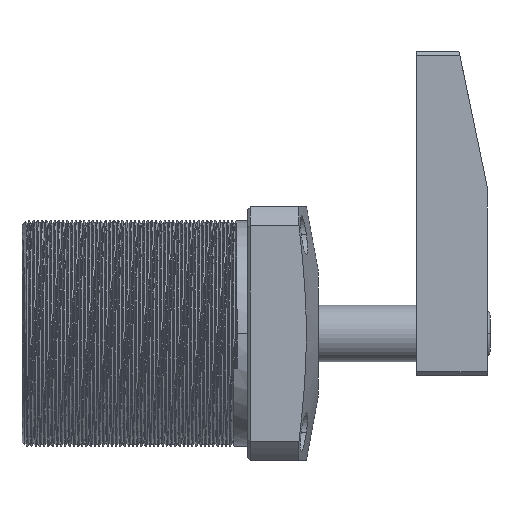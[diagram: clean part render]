
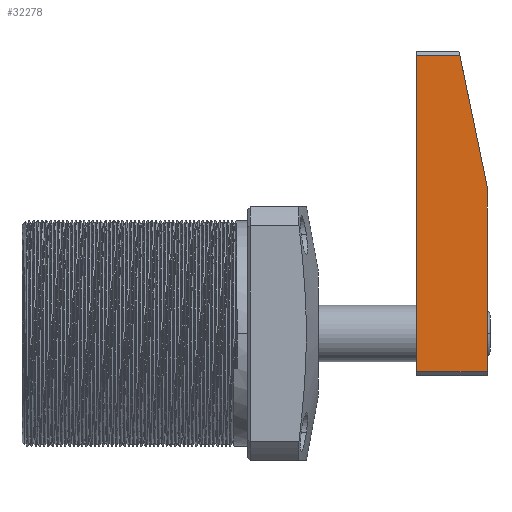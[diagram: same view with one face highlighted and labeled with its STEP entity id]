
A CAD part, left-side view. The second image highlights one B-rep face of the part: STEP entity #32278.
In plain terms, the highlighted planar face has unit normal (-1, 0, 0) as drawn and (1, 0, 0) by its records, which use the part's own axes.
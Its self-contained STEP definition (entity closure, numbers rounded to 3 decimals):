
#30675=DIRECTION('',(0.,0.,1.));
#30676=VECTOR('',#30675,15.313);
#30677=CARTESIAN_POINT('',(25.,113.5,-15.313));
#30678=LINE('',#30677,#30676);
#30679=DIRECTION('',(0.,0.979,0.204));
#30680=VECTOR('',#30679,47.498);
#30681=CARTESIAN_POINT('',(25.,67.,-25.));
#30682=LINE('',#30681,#30680);
#30683=DIRECTION('',(0.,1.,0.));
#30684=VECTOR('',#30683,65.5);
#30685=CARTESIAN_POINT('',(25.,1.5,-25.));
#30686=LINE('',#30685,#30684);
#30687=DIRECTION('',(0.,0.,-1.));
#30688=VECTOR('',#30687,25.);
#30689=CARTESIAN_POINT('',(25.,1.5,0.));
#30690=LINE('',#30689,#30688);
#30691=DIRECTION('',(0.,-1.,0.));
#30692=VECTOR('',#30691,112.);
#30693=CARTESIAN_POINT('',(25.,113.5,0.));
#30694=LINE('',#30693,#30692);
#31866=CARTESIAN_POINT('',(25.,67.,-25.));
#31868=VERTEX_POINT('',#31866);
#31893=CARTESIAN_POINT('',(25.,113.5,0.));
#31895=VERTEX_POINT('',#31893);
#31899=CARTESIAN_POINT('',(25.,113.5,-15.313));
#31900=VERTEX_POINT('',#31899);
#31917=CARTESIAN_POINT('',(25.,1.5,-25.));
#31919=VERTEX_POINT('',#31917);
#31923=CARTESIAN_POINT('',(25.,1.5,0.));
#31924=VERTEX_POINT('',#31923);
#32266=CARTESIAN_POINT('',(25.,0.,0.));
#32267=DIRECTION('',(1.,0.,0.));
#32268=DIRECTION('',(0.,-1.,0.));
#32269=AXIS2_PLACEMENT_3D('',#32266,#32267,#32268);
#32270=PLANE('',#32269);
#32271=ORIENTED_EDGE('',*,*,#32061,.F.);
#32272=ORIENTED_EDGE('',*,*,#32028,.F.);
#32273=ORIENTED_EDGE('',*,*,#32203,.F.);
#32274=ORIENTED_EDGE('',*,*,#32261,.F.);
#32275=ORIENTED_EDGE('',*,*,#32072,.F.);
#32276=EDGE_LOOP('',(#32271,#32272,#32273,#32274,#32275));
#32277=FACE_OUTER_BOUND('',#32276,.F.);
#32278=ADVANCED_FACE('',(#32277),#32270,.T.);
#32028=EDGE_CURVE('',#31868,#31900,#30682,.T.);
#32061=EDGE_CURVE('',#31900,#31895,#30678,.T.);
#32072=EDGE_CURVE('',#31895,#31924,#30694,.T.);
#32203=EDGE_CURVE('',#31919,#31868,#30686,.T.);
#32261=EDGE_CURVE('',#31924,#31919,#30690,.T.);
